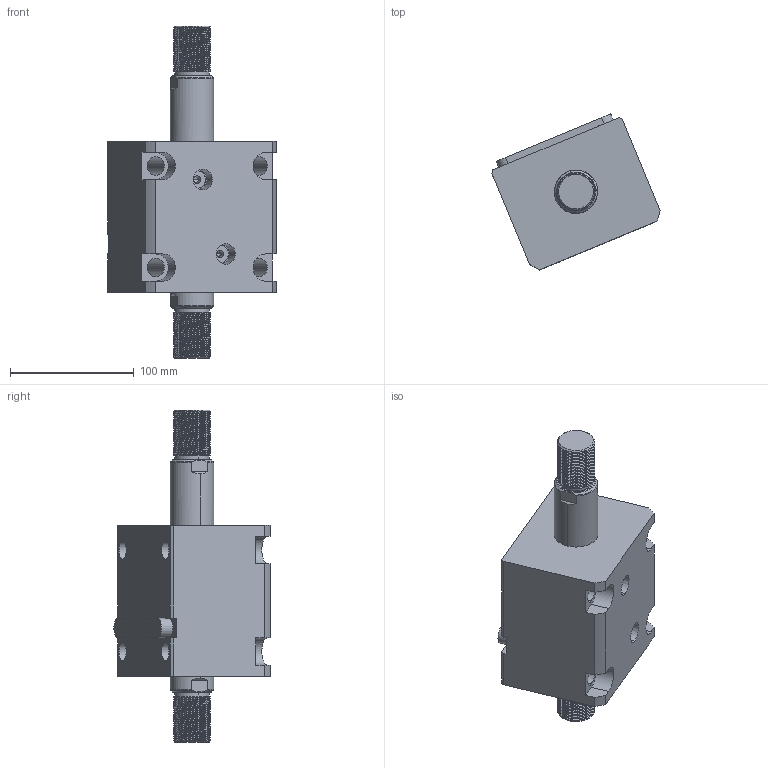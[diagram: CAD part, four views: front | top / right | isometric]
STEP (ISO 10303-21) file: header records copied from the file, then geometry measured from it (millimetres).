
FILE_DESCRIPTION (( 'STEP AP214' ), '1' );
FILE_NAME ('chtb-lw63x40w_asm.STEP', '2018-05-18T08:14:45', ( 'Windows' ), ( 'Microsoft' ), 'SwSTEP 2.0', 'SolidWorks 2015', '' );
FILE_SCHEMA (( 'AUTOMOTIVE_DESIGN' ));
Length unit declared in the file: millimetre
Products named in the file (5): CHTB-SW63X40WHSG; CHTB-LW63X40NBT; CHTB-LA63PJ; CHTB-63QG; chtb-lw63x40w_asm
Assembly tree (4 placements, depth 2):
  chtb-lw63x40w_asm
    CHTB-63QG
    CHTB-LA63PJ
    CHTB-LW63X40NBT
    CHTB-SW63X40WHSG
Bounding box: 135.77 x 126.06 x 268 mm (x, y, z)
Volume: 1187806 mm3; surface area: 172741.7 mm2
Topology: 4 solids, 4 shells, 306 faces, 889 edges, 601 vertices
Faces by surface type: cylinder 204, plane 58, bspline 16, cone 16, torus 12
Entity records: 27878 total; most frequent: CARTESIAN_POINT 20531, ORIENTED_EDGE 1770, DIRECTION 1228, EDGE_CURVE 885, VERTEX_POINT 601, AXIS2_PLACEMENT_3D 458, EDGE_LOOP 336, VECTOR 312
